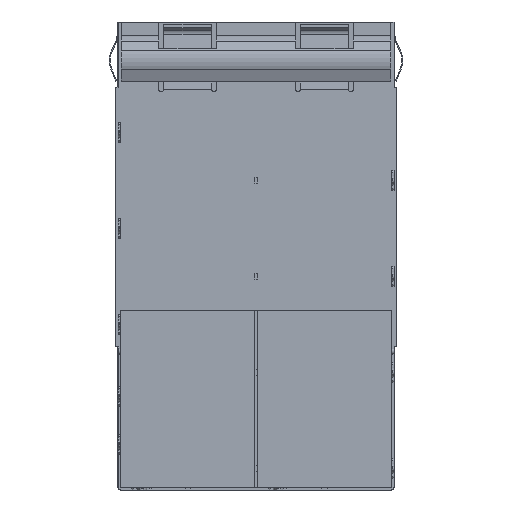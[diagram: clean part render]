
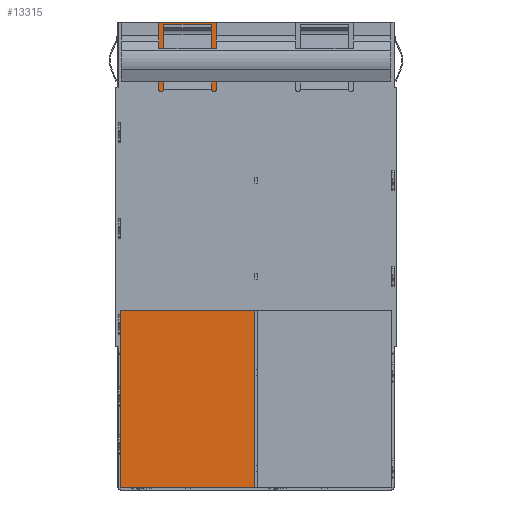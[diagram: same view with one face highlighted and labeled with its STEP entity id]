
A CAD part, front view. The second image highlights one B-rep face of the part: STEP entity #13315.
In plain terms, the highlighted planar face has unit normal (0, -1, 0).
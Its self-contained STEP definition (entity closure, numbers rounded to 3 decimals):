
#298 = VECTOR ( 'NONE', #4553, 1000. ) ;
#503 = CARTESIAN_POINT ( 'NONE',  ( 14.075, 9.2, 0. ) ) ;
#567 = EDGE_CURVE ( 'NONE', #4081, #2010, #4365, .T. ) ;
#609 = CARTESIAN_POINT ( 'NONE',  ( -14.075, 9.2, 0. ) ) ;
#704 = ORIENTED_EDGE ( 'NONE', *, *, #567, .F. ) ;
#1310 = DIRECTION ( 'NONE',  ( 0., 0., 1. ) ) ;
#1506 = DIRECTION ( 'NONE',  ( 0., 0., 1. ) ) ;
#1763 = VECTOR ( 'NONE', #1506, 1000. ) ;
#2010 = VERTEX_POINT ( 'NONE', #10440 ) ;
#2687 = DIRECTION ( 'NONE',  ( -1., 0., 0. ) ) ;
#2721 = EDGE_LOOP ( 'NONE', ( #6315, #5056, #8388, #704 ) ) ;
#3070 = CARTESIAN_POINT ( 'NONE',  ( -0.125, 9.2, -48.5 ) ) ;
#3310 = FACE_OUTER_BOUND ( 'NONE', #2721, .T. ) ;
#4081 = VERTEX_POINT ( 'NONE', #3070 ) ;
#4365 = LINE ( 'NONE', #11058, #12028 ) ;
#4426 = AXIS2_PLACEMENT_3D ( 'NONE', #6725, #7864, #1310 ) ;
#4553 = DIRECTION ( 'NONE',  ( 0., 0., -1. ) ) ;
#5056 = ORIENTED_EDGE ( 'NONE', *, *, #11271, .T. ) ;
#5858 = CARTESIAN_POINT ( 'NONE',  ( -0.125, 9.2, 0. ) ) ;
#5921 = EDGE_CURVE ( 'NONE', #11679, #4081, #6480, .T. ) ;
#6315 = ORIENTED_EDGE ( 'NONE', *, *, #5921, .F. ) ;
#6480 = LINE ( 'NONE', #9984, #298 ) ;
#6725 = CARTESIAN_POINT ( 'NONE',  ( 14.075, 9.2, -78.384 ) ) ;
#6769 = PLANE ( 'NONE',  #4426 ) ;
#6781 = VERTEX_POINT ( 'NONE', #609 ) ;
#7503 = VECTOR ( 'NONE', #2687, 1000. ) ;
#7864 = DIRECTION ( 'NONE',  ( 0., 1., 0. ) ) ;
#8388 = ORIENTED_EDGE ( 'NONE', *, *, #13673, .F. ) ;
#8478 = DIRECTION ( 'NONE',  ( -1., 0., 0. ) ) ;
#9984 = CARTESIAN_POINT ( 'NONE',  ( -0.125, 9.2, 8.953 ) ) ;
#10440 = CARTESIAN_POINT ( 'NONE',  ( -14.075, 9.2, -48.5 ) ) ;
#10700 = LINE ( 'NONE', #503, #7503 ) ;
#11058 = CARTESIAN_POINT ( 'NONE',  ( 14.075, 9.2, -48.5 ) ) ;
#11271 = EDGE_CURVE ( 'NONE', #11679, #6781, #10700, .T. ) ;
#11679 = VERTEX_POINT ( 'NONE', #5858 ) ;
#12028 = VECTOR ( 'NONE', #8478, 1000. ) ;
#12394 = CARTESIAN_POINT ( 'NONE',  ( -14.075, 9.2, -78.384 ) ) ;
#12997 = LINE ( 'NONE', #12394, #1763 ) ;
#13315 = ADVANCED_FACE ( 'NONE', ( #3310 ), #6769, .F. ) ;
#13673 = EDGE_CURVE ( 'NONE', #2010, #6781, #12997, .T. ) ;
